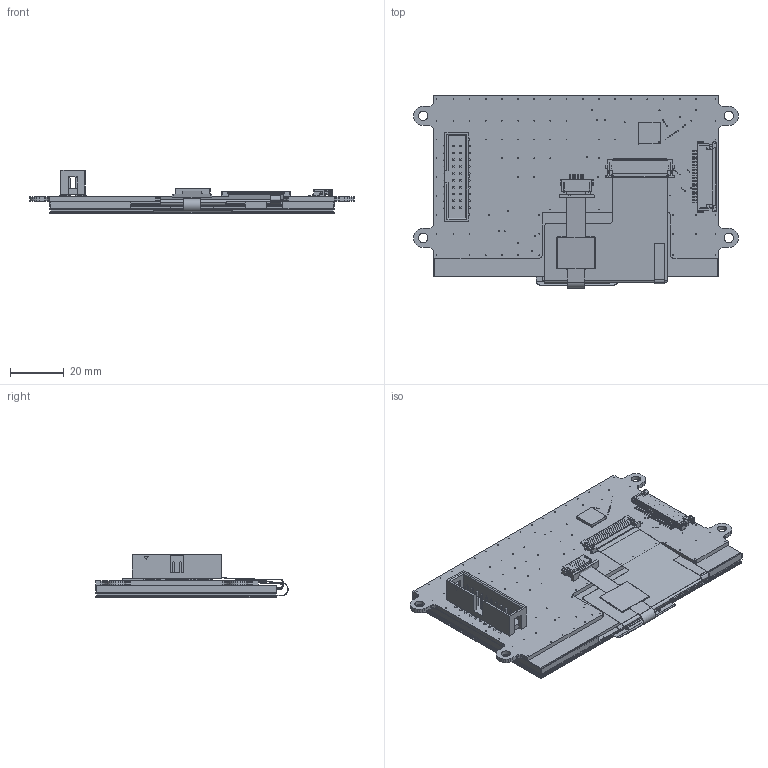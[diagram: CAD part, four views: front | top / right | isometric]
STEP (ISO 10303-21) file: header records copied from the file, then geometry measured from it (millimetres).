
FILE_DESCRIPTION (( 'STEP AP203' ), '1' );
FILE_NAME ('NHD-4.3-480272FT-CSXP-CTP.STEP', '2022-06-24T21:42:00', ( '' ), ( '' ), 'SwSTEP 2.0', 'SolidWorks 2019', '' );
FILE_SCHEMA (( 'CONFIG_CONTROL_DESIGN' ));
Products named in the file (1): NHD-4.3-480272FT-CSXP-CTP
Bounding box: 120.6 x 71.4 x 16.05 mm (x, y, z)
Volume: 35460.8 mm3; surface area: 69491.7 mm2
Topology: 13 solids, 13 shells, 4995 faces, 14818 edges, 9624 vertices
Faces by surface type: plane 4023, cylinder 848, cone 109, bspline 15
Entity records: 166780 total; most frequent: CARTESIAN_POINT 31826, ORIENTED_EDGE 29548, DIRECTION 26035, EDGE_CURVE 14774, LINE 12541, VECTOR 12541, VERTEX_POINT 9624, AXIS2_PLACEMENT_3D 6747
